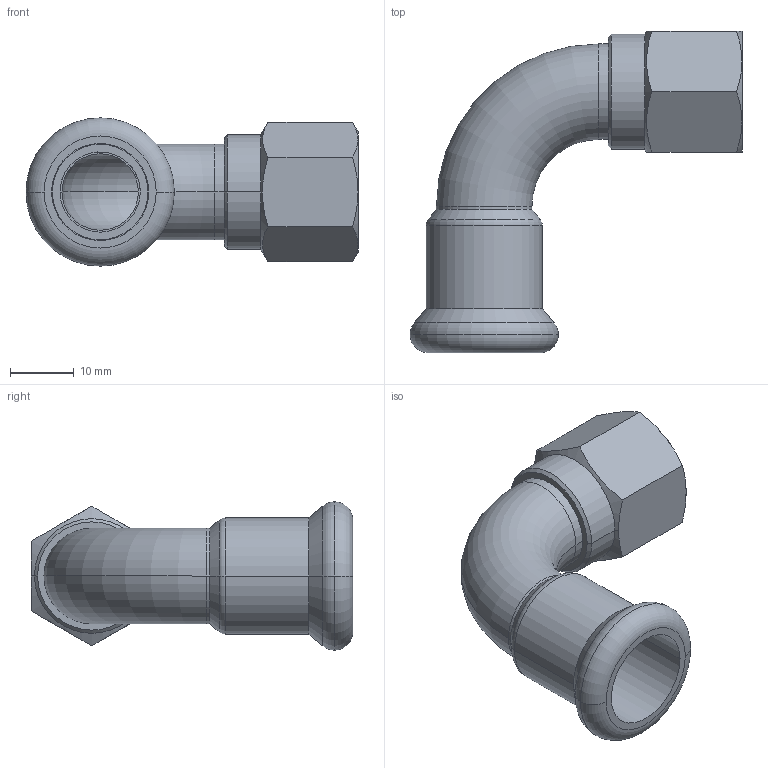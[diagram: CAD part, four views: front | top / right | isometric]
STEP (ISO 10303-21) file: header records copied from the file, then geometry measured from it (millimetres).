
FILE_DESCRIPTION(('CoCreate Modeling STEP Export'),'2;1');
FILE_NAME('C1438 15xRp3-8.stp','2014-11-12T16:34:35',(''),(''),'CoCreate Modeling STEP processor for AP214 (Solid Model)','CoCreate Modeling 17.00A 17-Jun-2010 (C) Parametric Technology GmbH','');
FILE_SCHEMA(('AUTOMOTIVE_DESIGN { 1 0 10303 214 1 1 1 1 }'));
Length unit declared in the file: millimetre
Products named in the file (2): C1438_15xRp3-8
Assembly tree (1 placements, depth 2):
  C1438_15xRp3-8
    C1438_15xRp3-8
Bounding box: 52.15 x 50.5 x 23.3 mm (x, y, z)
Volume: 7379.5 mm3; surface area: 7837.9 mm2
Topology: 1 solids, 1 shells, 63 faces, 142 edges, 86 vertices
Faces by surface type: cylinder 22, cone 18, plane 13, torus 10
Entity records: 2300 total; most frequent: CARTESIAN_POINT 1070, ORIENTED_EDGE 284, DIRECTION 196, EDGE_CURVE 142, VERTEX_POINT 86, AXIS2_PLACEMENT_3D 78, EDGE_LOOP 70, FACE_OUTER_BOUND 63
